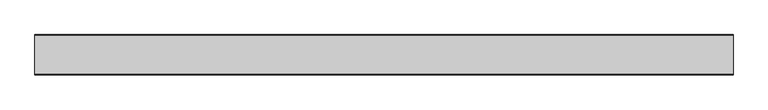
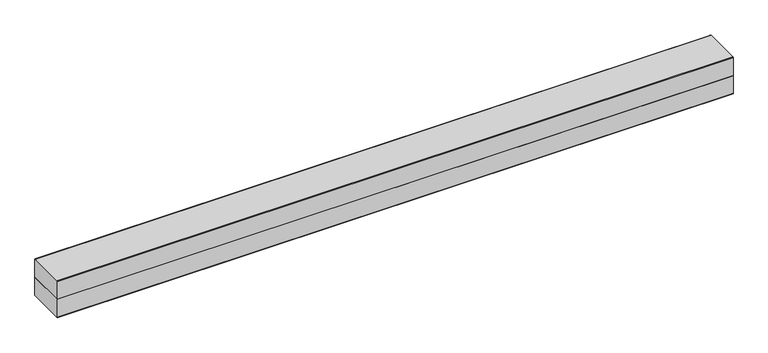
"""IFC4 building model written with IfcOpenShell, lengths in millimetres: proxy geometry, Weiku - Caixa de Persiana : Weiku - Persiana 230mm x 230mm."""

from ifc_helpers import new_model, si_unit, point, frame, frame_2d, origin, place, context, project, spatial, polyline, circle_curve, trimmed, segment, composite_curve, outline, extrude, source, transform, mapped, element, save


def generic_models_3bfc9e80(model_context):
    return source(origin(), model_context, "Body", "SweptSolid", [
        extrude(outline(composite_curve([segment(polyline([(-115.0, 0.0), (115.0, 0.0), (115.0, -111.0)]), True, "CONTINUOUS"), segment(trimmed(circle_curve(frame_2d((111.0, -111.0)), 4.0), [point((115.0, -111.0))], [point((111.0, -115.0))], False, "CARTESIAN"), True, "CONTINUOUS"), segment(polyline([(111.0, -115.0), (-111.0, -115.0)]), True, "CONTINUOUS"), segment(trimmed(circle_curve(frame_2d((-111.0, -111.0)), 4.0), [point((-111.0, -115.0))], [point((-115.0, -111.0))], False, "CARTESIAN"), True, "CONTINUOUS"), segment(polyline([(-115.0, -111.0), (-115.0, 0.0)]), True, "CONTINUOUS")], self_intersect=False)), frame((-1997.0, 0.0, 0.0), z_axis=(1.0, 0.0, 0.0), x_axis=(0.0, 1.0, 0.0)), (0.0, 0.0, 1.0), 3994.0),
        extrude(outline(composite_curve([segment(polyline([(-115.0, 0.0), (-115.0, 111.0)]), True, "CONTINUOUS"), segment(trimmed(circle_curve(frame_2d((-111.0, 111.0)), 4.0), [point((-115.0, 111.0))], [point((-111.0, 115.0))], False, "CARTESIAN"), True, "CONTINUOUS"), segment(polyline([(-111.0, 115.0), (111.0, 115.0)]), True, "CONTINUOUS"), segment(trimmed(circle_curve(frame_2d((111.0, 111.0)), 4.0), [point((111.0, 115.0))], [point((115.0, 111.0))], False, "CARTESIAN"), True, "CONTINUOUS"), segment(polyline([(115.0, 111.0), (115.0, 0.0), (-115.0, 0.0)]), True, "CONTINUOUS")], self_intersect=False)), frame((-1997.0, 0.0, 0.0), z_axis=(1.0, 0.0, 0.0), x_axis=(0.0, 1.0, 0.0)), (0.0, 0.0, 1.0), 3994.0),
    ])


if __name__ == "__main__":
    model = new_model("IFC4")
    model_context = context("Model", 3, world=origin())
    ifc_project = project(units=[si_unit("LENGTHUNIT", "METRE", prefix="MILLI")], contexts=[model_context])
    site = spatial("IfcSite", under=ifc_project)
    building = spatial("IfcBuilding", under=site)
    placement = place(None, origin())
    generic_models_shape = generic_models_3bfc9e80(model_context)
    element("IfcBuildingElementProxy", 1, Name="Weiku - Caixa de Persiana : Weiku - Persiana 230mm x 230mm", ObjectType="Weiku - Caixa de Persiana : Weiku - Persiana 230mm x 230mm", at=placement, inside=building, context=model_context, shape_type="MappedRepresentation", body=[
        mapped(generic_models_shape, transform((0.0, 0.0, 0.0), x_axis=(1.0, 0.0, 0.0), y_axis=(0.0, 1.0, 0.0), z_axis=(0.0, 0.0, 1.0))),
    ])
    save(model, "model.ifc")
